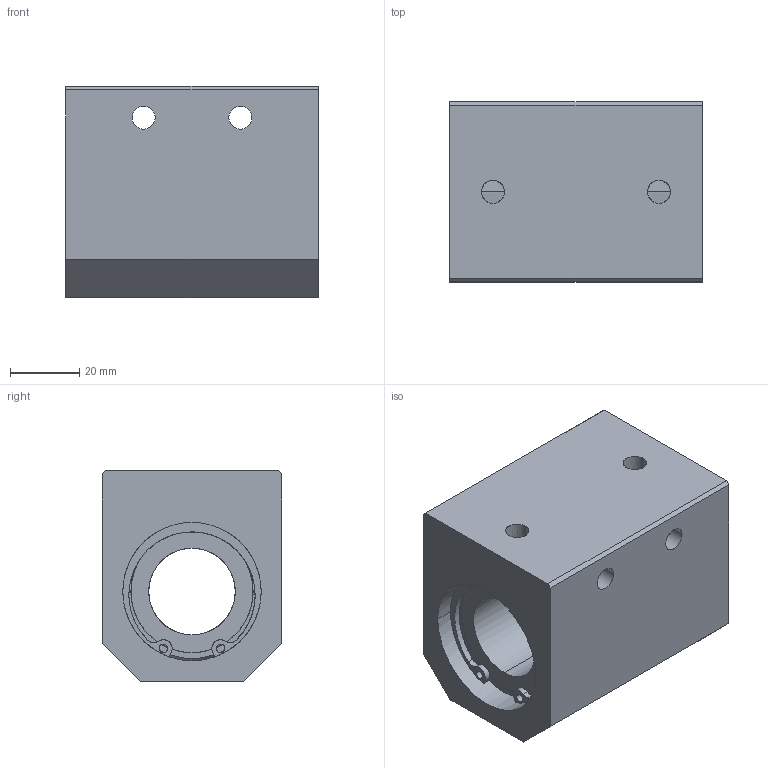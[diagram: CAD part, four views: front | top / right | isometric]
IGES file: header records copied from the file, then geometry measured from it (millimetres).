
Global section: file name: No Iges File Name specified; native system: AutoDesk Inventor R10; preprocessor: AutoDesk Inventor Iges Exporter R10; author: No Author specified; organization: No Organization specified; date: 20101213.094053; units: millimetre
Bounding box: 73 x 52 x 61 mm (x, y, z)
Surface area: 32359.2 mm2 (no closed solid volume)
Topology: 0 solids, 0 shells, 102 faces, 832 edges, 832 vertices
Faces by surface type: bspline 102
